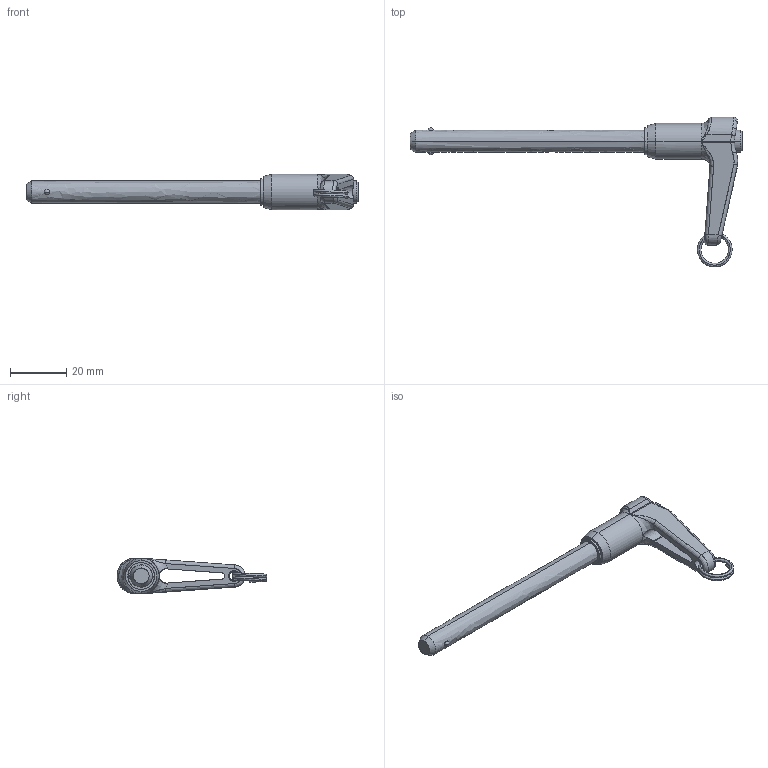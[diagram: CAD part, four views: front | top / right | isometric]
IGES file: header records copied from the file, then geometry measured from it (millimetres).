
Start section: SolidWorks IGES file using analytic representation for surfaces
Global section: file name: C:\Documents and Settings\IANO\My Documents\Wix and Auto CAD Work\CAD Models\Parametric Models\Wix Models\30000\33620_v2\33620_v2_20160606_IGES\Default.igs; native system: SolidWorks 2009; preprocessor: SolidWorks 2009; author: IANO; date: 160615.125551; units: inch
Bounding box: 118.45 x 53.49 x 12.7 mm (x, y, z)
Surface area: 6806.6 mm2 (no closed solid volume)
Topology: 0 solids, 0 shells, 85 faces, 1226 edges, 1224 vertices
Faces by surface type: bspline 55, revolution 30
